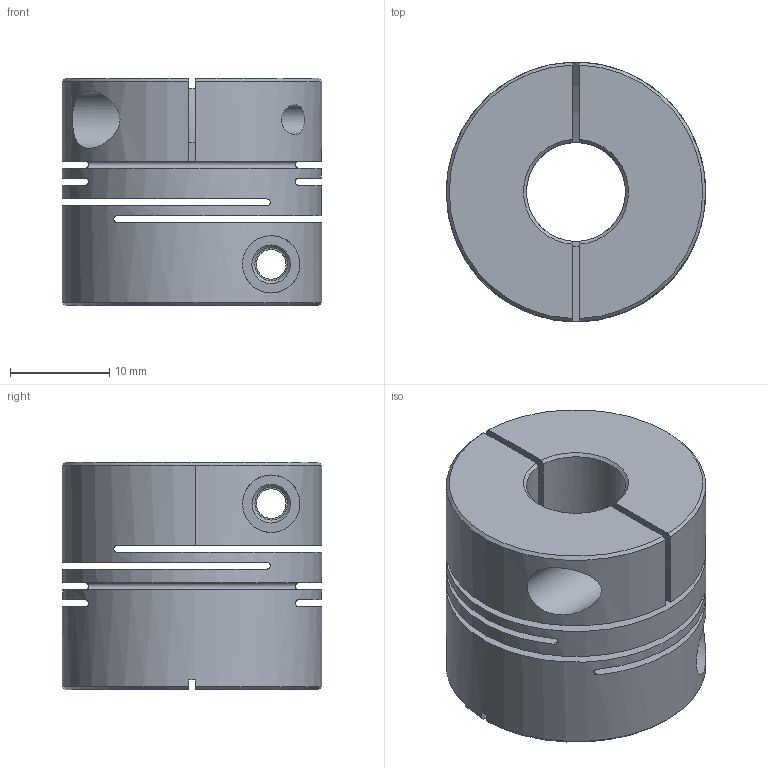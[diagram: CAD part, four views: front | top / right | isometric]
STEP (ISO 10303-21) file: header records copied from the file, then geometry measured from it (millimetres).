
FILE_DESCRIPTION( ( 'Unknown' ), '1' );
FILE_NAME( 'D:/3D/目敲傅/SRBM Type/C Type/SRBM-26C.stp', 'Unknown', ( 'Unknown' ), ( 'Unknown' ), 'XStep 1.0', 'Unknown', ' ' );
FILE_SCHEMA( ( 'CONFIG_CONTROL_DESIGN' ) );
Length unit declared in the file: millimetre
Products named in the file (1): 1
Bounding box: 26.2 x 26.2 x 23 mm (x, y, z)
Volume: 8746.6 mm3; surface area: 7033.6 mm2
Topology: 1 solids, 1 shells, 55 faces, 150 edges, 101 vertices
Faces by surface type: plane 24, cylinder 21, cone 10
Full cylindrical faces by diameter (mm): 3 x2, 3.3 x4, 5.8 x2, 11 x3, 26.2 x1
Entity records: 1900 total; most frequent: CARTESIAN_POINT 607, DIRECTION 250, ORIENTED_EDGE 240, EDGE_CURVE 120, AXIS2_PLACEMENT_3D 107, EDGE_LOOP 88, VERTEX_POINT 88, FACE_OUTER_BOUND 66
